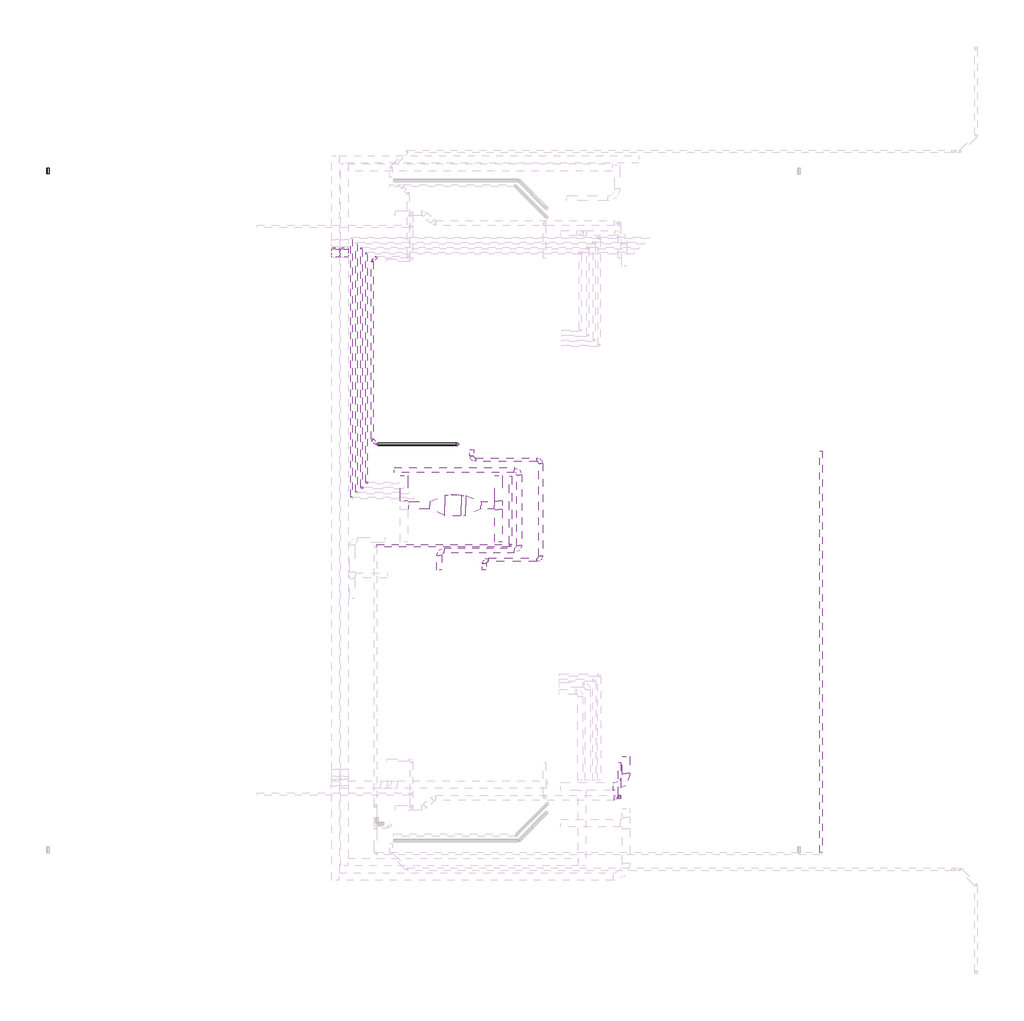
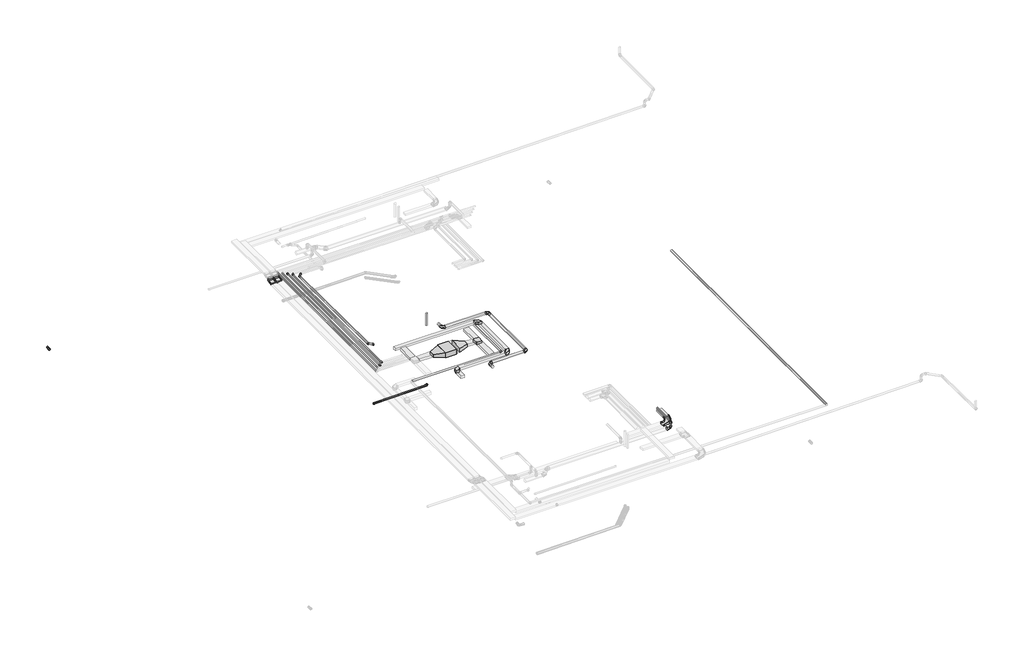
# One storey, part 3 of 5: 17 duct segments, 13 duct fittings, 13 pipe segments, 10 pipe fittings, 3 cable carrier fittings, 3 cable carrier segments, 1 proxy.
"""IFC4 building model written with IfcOpenShell, lengths in millimetres."""

from ifc_helpers import new_model, si_unit, point, frame, frame_2d, origin, place, context, project, spatial, polyline, circle_curve, trimmed, segment, composite_curve, outline, extrude, transform, mapped, element, save
from components import fc01_db58e849, m_codo_horizontal_de_canal_el_5b0e7b07, m_codo_vertical_interior_de_canal_el_3f65be50, duct_fitting_9d984206, duct_fitting_e8ecb067, duct_fitting_4802cc83, ext_95de42ea, m_codo_rectangular_radio_apt_1_w_a605e9b7, m_codo_redondo_ext_1_d_fe658834, m_codo_redondo_ext_1_d_96ea52f9, pipe_fitting_7b861d32, pipe_fitting_a8c499ec, pipe_fitting_f5d6ed74, pipe_fitting_3a68447e, pipe_fitting_87aeffad, pipe_fitting_022dd2a5, pipe_fitting_850c79cb

model = new_model("IFC4")

# Units and contexts
model_context = context("Model", 3, world=origin())
ifc_project = project(units=[si_unit("LENGTHUNIT", "METRE", prefix="MILLI")], contexts=[model_context])

# Site, building, storey
site = spatial("IfcSite", under=ifc_project)
building = spatial("IfcBuilding", under=site)
storey = spatial("IfcBuildingStorey", under=building, Name="Nivell 02 P02_PP", Elevation=14910.0)

# Proxy
placement = place(None, origin())
fc01_shape = fc01_db58e849(model_context)
element("IfcBuildingElementProxy", 1, Name="ARC_MDL_ME_UI_FC_ConducteSostre : FC01", ObjectType="ARC_MDL_ME_UI_FC_ConducteSostre : FC01", at=placement, inside=storey, context=model_context, shape_type="MappedRepresentation", body=[
    mapped(fc01_shape, transform((9681.3112506, -4290.0827616, 18019.6198525), x_axis=(-5.108879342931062e-05, -0.9999999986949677, 0.0), y_axis=(0.9999999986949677, -5.108879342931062e-05, 0.0), z_axis=(0.0, 0.0, 1.0))),
])

# Cable carrier fittings
m_codo_horizontal_de_canal_el_shape = m_codo_horizontal_de_canal_el_5b0e7b07(model_context)
element("IfcCableCarrierFitting", 2, ObjectType="M_Codo horizontal de canal : EL", at=placement, inside=storey, context=model_context, shape_type="MappedRepresentation", body=[
    mapped(m_codo_horizontal_de_canal_el_shape, transform((16614.6624278, -15521.1304394, 18010.0), x_axis=(1.0, 0.0, 0.0), y_axis=(0.0, 1.0, 0.0), z_axis=(0.0, 0.0, 1.0))),
])
m_codo_vertical_interior_de_canal_el_shape = m_codo_vertical_interior_de_canal_el_3f65be50(model_context)
element("IfcCableCarrierFitting", 3, ObjectType="M_Codo vertical interior de canal : EL", at=placement, inside=storey, context=model_context, shape_type="MappedRepresentation", body=[
    mapped(m_codo_vertical_interior_de_canal_el_shape, transform((5357.0671065, 5803.2057884, 18010.0), x_axis=(0.0, -0.8660254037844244, -0.5000000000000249), y_axis=(0.0, -0.5000000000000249, 0.8660254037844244), z_axis=(-1.0, 0.0, 0.0))),
])
element("IfcCableCarrierFitting", 4, ObjectType="M_Codo vertical interior de canal : EL", at=placement, inside=storey, context=model_context, shape_type="MappedRepresentation", body=[
    mapped(m_codo_vertical_interior_de_canal_el_shape, transform((5008.2381883, 5803.2057884, 18010.0), x_axis=(0.0, -0.8660254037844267, -0.5000000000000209), y_axis=(0.0, -0.5000000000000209, 0.8660254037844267), z_axis=(-1.0, 0.0, 0.0))),
])

# Cable carrier segments
element("IfcCableCarrierSegment", 5, ObjectType="EL", at=placement, inside=storey, context=model_context, shape_type="SweptSolid", body=[
    extrude(outline(polyline([(16464.6624278, -14321.1304394), (16764.6624278, -14321.1304394), (16764.6624278, -14996.1304394), (16464.6624278, -14996.1304394), (16464.6624278, -14321.1304394)])), frame((0.0, 0.0, 17960.0), z_axis=(0.0, 0.0, 1.0), x_axis=(1.0, 0.0, 0.0)), (0.0, 0.0, 1.0), 100.0),
])
element("IfcCableCarrierSegment", 6, ObjectType="EL", at=placement, inside=storey, context=model_context, shape_type="SweptSolid", body=[
    extrude(outline(polyline([(0.0, -300.0), (0.0, 0.0), (62.4355653, 0.0), (62.4355653, -300.0), (0.0, -300.0)])), frame((5507.0671065, 6028.446262, 18082.3076211), z_axis=(0.0, -0.5000000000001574, 0.8660254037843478), x_axis=(0.0, -0.8660254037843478, -0.5000000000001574)), (0.0, 0.0, 1.0), 100.0),
])
element("IfcCableCarrierSegment", 7, ObjectType="EL", at=placement, inside=storey, context=model_context, shape_type="SweptSolid", body=[
    extrude(outline(polyline([(0.0, -300.0), (0.0, 0.0), (62.4355653, 0.0), (62.4355653, -300.0), (0.0, -300.0)])), frame((5158.2381883, 6028.446262, 18082.3076211), z_axis=(0.0, -0.4999999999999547, 0.8660254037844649), x_axis=(0.0, -0.8660254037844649, -0.4999999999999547)), (0.0, 0.0, 1.0), 100.0),
])

# Duct fittings
duct_fitting_shape = duct_fitting_9d984206(model_context)
element("IfcDuctFitting", 8, ObjectType="M_Transición redonda - Ángulo : EXT_45 graus", at=placement, inside=storey, context=model_context, shape_type="MappedRepresentation", body=[
    mapped(duct_fitting_shape, transform((16250.5896993, -15972.9719502, 17990.0), x_axis=(-1.0, 0.0, 0.0), y_axis=(0.0, -1.0, 0.0), z_axis=(0.0, 0.0, 1.0))),
])
duct_fitting_2_shape = duct_fitting_e8ecb067(model_context)
element("IfcDuctFitting", 9, ObjectType="M_Transición rectangular - Ángulo : EXT_45 graus", at=placement, inside=storey, context=model_context, shape_type="MappedRepresentation", body=[
    mapped(duct_fitting_2_shape, transform((9366.311258, -4289.9287549, 18177.1198525), x_axis=(-0.9999999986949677, 5.108879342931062e-05, 0.0), y_axis=(-5.108879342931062e-05, -0.9999999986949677, 0.0), z_axis=(0.0, 0.0, 1.0))),
])
duct_fitting_3_shape = duct_fitting_4802cc83(model_context)
element("IfcDuctFitting", 10, ObjectType="M_Transición rectangular - Ángulo : EXT_45 graus", at=placement, inside=storey, context=model_context, shape_type="MappedRepresentation", body=[
    mapped(duct_fitting_3_shape, transform((10216.57728, -4290.2068024, 18177.1198525), x_axis=(0.9999999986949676, -5.1088793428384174e-05, 0.0), y_axis=(5.1088793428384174e-05, 0.9999999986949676, 0.0), z_axis=(0.0, 0.0, 1.0))),
])
ext_shape = ext_95de42ea(model_context)
element("IfcDuctFitting", 11, ObjectType="M_Te rectangular : EXT", at=placement, inside=storey, context=model_context, shape_type="MappedRepresentation", body=[
    mapped(ext_shape, transform((11523.311255, -4289.9524808, 18075.8305344), x_axis=(0.0, -1.0, 0.0), y_axis=(1.0, 0.0, 0.0), z_axis=(0.0, 0.0, 1.0))),
])
m_codo_rectangular_radio_apt_1_w_shape = m_codo_rectangular_radio_apt_1_w_a605e9b7(model_context)
element("IfcDuctFitting", 12, ObjectType="M_Codo rectangular - Radio : EXT_1 W", at=placement, inside=storey, context=model_context, shape_type="MappedRepresentation", body=[
    mapped(m_codo_rectangular_radio_apt_1_w_shape, transform((12351.1206995, -6088.8306037, 18185.0), x_axis=(1.0, 0.0, 0.0), y_axis=(0.0, 1.0, 0.0), z_axis=(0.0, 0.0, 1.0))),
])
element("IfcDuctFitting", 13, ObjectType="M_Codo rectangular - Radio : EXT_1 W", at=placement, inside=storey, context=model_context, shape_type="MappedRepresentation", body=[
    mapped(m_codo_rectangular_radio_apt_1_w_shape, transform((9151.1206995, -6088.8306037, 18185.0), x_axis=(-1.0, 0.0, 0.0), y_axis=(0.0, -1.0, 0.0), z_axis=(0.0, 0.0, 1.0))),
])
element("IfcDuctFitting", 14, ObjectType="M_Codo rectangular - Radio : EXT_1 W", at=placement, inside=storey, context=model_context, shape_type="MappedRepresentation", body=[
    mapped(m_codo_rectangular_radio_apt_1_w_shape, transform((12351.1206995, -2888.8306037, 18185.0), x_axis=(0.0, 1.0, 0.0), y_axis=(-1.0, 0.0, 0.0), z_axis=(0.0, 0.0, 1.0))),
])
m_codo_redondo_ext_1_d_shape = m_codo_redondo_ext_1_d_fe658834(model_context)
element("IfcDuctFitting", 15, ObjectType="M_Codo redondo : EXT_1 D", at=placement, inside=storey, context=model_context, shape_type="MappedRepresentation", body=[
    mapped(m_codo_redondo_ext_1_d_shape, transform((10951.1206995, -6468.8306037, 18185.0), x_axis=(-1.0, 0.0, 0.0), y_axis=(0.0, -1.0, 0.0), z_axis=(0.0, 0.0, 1.0))),
])
element("IfcDuctFitting", 16, ObjectType="M_Codo redondo : EXT_1 D", at=placement, inside=storey, context=model_context, shape_type="MappedRepresentation", body=[
    mapped(m_codo_redondo_ext_1_d_shape, transform((13201.1206995, -6468.8306037, 18185.0), x_axis=(1.0, 0.0, 0.0), y_axis=(0.0, 1.0, 0.0), z_axis=(0.0, 0.0, 1.0))),
])
element("IfcDuctFitting", 17, ObjectType="M_Codo redondo : EXT_1 D", at=placement, inside=storey, context=model_context, shape_type="MappedRepresentation", body=[
    mapped(m_codo_redondo_ext_1_d_shape, transform((13201.1206995, -2468.8306037, 18185.0), x_axis=(0.0, 1.0, 0.0), y_axis=(-1.0, 0.0, 0.0), z_axis=(0.0, 0.0, 1.0))),
])
element("IfcDuctFitting", 18, ObjectType="M_Codo redondo : EXT_1 D", at=placement, inside=storey, context=model_context, shape_type="MappedRepresentation", body=[
    mapped(m_codo_redondo_ext_1_d_shape, transform((10451.1206995, -2468.8306037, 18185.0), x_axis=(0.0, -1.0, 0.0), y_axis=(1.0, 0.0, 0.0), z_axis=(0.0, 0.0, 1.0))),
])
m_codo_redondo_ext_1_d_2_shape = m_codo_redondo_ext_1_d_96ea52f9(model_context)
element("IfcDuctFitting", 19, ObjectType="M_Codo redondo : EXT_1 D", at=placement, inside=storey, context=model_context, shape_type="MappedRepresentation", body=[
    mapped(m_codo_redondo_ext_1_d_2_shape, transform((16350.5896993, -15972.9719502, 18360.0), x_axis=(0.0, -1.0, 0.0), y_axis=(0.0, 0.0, 1.0), z_axis=(-1.0, 0.0, 0.0))),
])
element("IfcDuctFitting", 20, ObjectType="M_Codo redondo : EXT_1 D", at=placement, inside=storey, context=model_context, shape_type="MappedRepresentation", body=[
    mapped(m_codo_redondo_ext_1_d_2_shape, transform((16350.5896993, -15972.9719502, 17990.0), x_axis=(0.0, 0.0, -1.0), y_axis=(1.0, 0.0, 0.0), z_axis=(0.0, -1.0, 0.0))),
])

# Duct segments
element("IfcDuctSegment", 21, ObjectType="EXT_Fibra de vidre rígida", at=placement, inside=storey, context=model_context, shape_type="SweptSolid", body=[
    extrude(outline(polyline([(9351.1206995, -6188.8306037), (9351.1206995, -5988.8306037), (12151.1206995, -5988.8306037), (12151.1206995, -6188.8306037), (9351.1206995, -6188.8306037)])), frame((0.0, 0.0, 18110.0), z_axis=(0.0, 0.0, 1.0), x_axis=(1.0, 0.0, 0.0)), (0.0, 0.0, 1.0), 150.0),
])
element("IfcDuctSegment", 22, ObjectType="EXT_Fibra de vidre rígida", at=placement, inside=storey, context=model_context, shape_type="SweptSolid", body=[
    extrude(outline(polyline([(12251.1206995, -3088.8306037), (12451.1206995, -3088.8306037), (12451.1206995, -5888.8306037), (12251.1206995, -5888.8306037), (12251.1206995, -3088.8306037)])), frame((0.0, 0.0, 18110.0), z_axis=(0.0, 0.0, 1.0), x_axis=(1.0, 0.0, 0.0)), (0.0, 0.0, 1.0), 150.0),
])
element("IfcDuctSegment", 23, ObjectType="EXT_Fibra de vidre rígida", at=placement, inside=storey, context=model_context, shape_type="SweptSolid", body=[
    extrude(outline(polyline([(9251.1206995, -6868.8306037), (9051.1206995, -6868.8306037), (9051.1206995, -6288.8306037), (9251.1206995, -6288.8306037), (9251.1206995, -6868.8306037)])), frame((0.0, 0.0, 18110.0), z_axis=(0.0, 0.0, 1.0), x_axis=(1.0, 0.0, 0.0)), (0.0, 0.0, 1.0), 150.0),
])
element("IfcDuctSegment", 24, ObjectType="EXT_Fibra de vidre rígida", at=placement, inside=storey, context=model_context, shape_type="SweptSolid", body=[
    extrude(outline(polyline([(7351.1206995, -2988.8306037), (7351.1206995, -2788.8306037), (12151.1206995, -2788.8306037), (12151.1206995, -2988.8306037), (7351.1206995, -2988.8306037)])), frame((0.0, 0.0, 18110.0), z_axis=(0.0, 0.0, 1.0), x_axis=(1.0, 0.0, 0.0)), (0.0, 0.0, 1.0), 150.0),
])
element("IfcDuctSegment", 25, ObjectType="EXT_Acer Galvanitzat - Rígid", at=placement, inside=storey, context=model_context, shape_type="SweptSolid", body=[
    extrude(outline(composite_curve([segment(trimmed(circle_curve(frame_2d((18185.0, 10951.1206995)), 75.0), [point((18185.0, 11026.1206995))], [point((18260.0, 10951.1206995))], False, "CARTESIAN"), True, "CONTINUOUS"), segment(trimmed(circle_curve(frame_2d((18185.0, 10951.1206995)), 75.0), [point((18260.0, 10951.1206995))], [point((18185.0, 10876.1206995))], False, "CARTESIAN"), True, "CONTINUOUS"), segment(trimmed(circle_curve(frame_2d((18185.0, 10951.1206995)), 75.0), [point((18185.0, 10876.1206995))], [point((18110.0, 10951.1206995))], False, "CARTESIAN"), True, "CONTINUOUS"), segment(trimmed(circle_curve(frame_2d((18185.0, 10951.1206995)), 75.0), [point((18110.0, 10951.1206995))], [point((18185.0, 11026.1206995))], False, "CARTESIAN"), True, "CONTINUOUS")], self_intersect=False)), frame((0.0, -6868.8306037, 0.0), z_axis=(0.0, 1.0, 0.0), x_axis=(0.0, 0.0, 1.0)), (0.0, 0.0, 1.0), 250.0),
])
element("IfcDuctSegment", 26, ObjectType="EXT_Acer Galvanitzat - Rígid", at=placement, inside=storey, context=model_context, shape_type="SweptSolid", body=[
    extrude(outline(composite_curve([segment(trimmed(circle_curve(frame_2d((-6468.8306037, 18185.0)), 75.0), [point((-6543.8306037, 18185.0))], [point((-6468.8306037, 18260.0))], False, "CARTESIAN"), True, "CONTINUOUS"), segment(trimmed(circle_curve(frame_2d((-6468.8306037, 18185.0)), 75.0), [point((-6468.8306037, 18260.0))], [point((-6393.8306037, 18185.0))], False, "CARTESIAN"), True, "CONTINUOUS"), segment(trimmed(circle_curve(frame_2d((-6468.8306037, 18185.0)), 75.0), [point((-6393.8306037, 18185.0))], [point((-6468.8306037, 18110.0))], False, "CARTESIAN"), True, "CONTINUOUS"), segment(trimmed(circle_curve(frame_2d((-6468.8306037, 18185.0)), 75.0), [point((-6468.8306037, 18110.0))], [point((-6543.8306037, 18185.0))], False, "CARTESIAN"), True, "CONTINUOUS")], self_intersect=False)), frame((11101.1206995, 0.0, 0.0), z_axis=(1.0, 0.0, 0.0), x_axis=(0.0, 1.0, 0.0)), (0.0, 0.0, 1.0), 1950.0),
])
element("IfcDuctSegment", 27, ObjectType="EXT_Acer Galvanitzat - Rígid", at=placement, inside=storey, context=model_context, shape_type="SweptSolid", body=[
    extrude(outline(composite_curve([segment(trimmed(circle_curve(frame_2d((18185.0, 13201.1206995)), 75.0), [point((18185.0, 13276.1206995))], [point((18260.0, 13201.1206995))], False, "CARTESIAN"), True, "CONTINUOUS"), segment(trimmed(circle_curve(frame_2d((18185.0, 13201.1206995)), 75.0), [point((18260.0, 13201.1206995))], [point((18185.0, 13126.1206995))], False, "CARTESIAN"), True, "CONTINUOUS"), segment(trimmed(circle_curve(frame_2d((18185.0, 13201.1206995)), 75.0), [point((18185.0, 13126.1206995))], [point((18110.0, 13201.1206995))], False, "CARTESIAN"), True, "CONTINUOUS"), segment(trimmed(circle_curve(frame_2d((18185.0, 13201.1206995)), 75.0), [point((18110.0, 13201.1206995))], [point((18185.0, 13276.1206995))], False, "CARTESIAN"), True, "CONTINUOUS")], self_intersect=False)), frame((0.0, -6318.8306037, 0.0), z_axis=(0.0, 1.0, 0.0), x_axis=(0.0, 0.0, 1.0)), (0.0, 0.0, 1.0), 3700.0),
])
element("IfcDuctSegment", 28, ObjectType="EXT_Acer Galvanitzat - Rígid", at=placement, inside=storey, context=model_context, shape_type="SweptSolid", body=[
    extrude(outline(composite_curve([segment(trimmed(circle_curve(frame_2d((-2468.8306037, 18185.0)), 75.0), [point((-2393.8306037, 18185.0))], [point((-2468.8306037, 18110.0))], False, "CARTESIAN"), True, "CONTINUOUS"), segment(trimmed(circle_curve(frame_2d((-2468.8306037, 18185.0)), 75.0), [point((-2468.8306037, 18110.0))], [point((-2543.8306037, 18185.0))], False, "CARTESIAN"), True, "CONTINUOUS"), segment(trimmed(circle_curve(frame_2d((-2468.8306037, 18185.0)), 75.0), [point((-2543.8306037, 18185.0))], [point((-2468.8306037, 18260.0))], False, "CARTESIAN"), True, "CONTINUOUS"), segment(trimmed(circle_curve(frame_2d((-2468.8306037, 18185.0)), 75.0), [point((-2468.8306037, 18260.0))], [point((-2393.8306037, 18185.0))], False, "CARTESIAN"), True, "CONTINUOUS")], self_intersect=False)), frame((10601.1206995, 0.0, 0.0), z_axis=(1.0, 0.0, 0.0), x_axis=(0.0, 1.0, 0.0)), (0.0, 0.0, 1.0), 2450.0),
])
element("IfcDuctSegment", 29, ObjectType="EXT_Acer Galvanitzat - Rígid", at=placement, inside=storey, context=model_context, shape_type="SweptSolid", body=[
    extrude(outline(composite_curve([segment(trimmed(circle_curve(frame_2d((18185.0, 10451.1206995)), 75.0), [point((18185.0, 10526.1206995))], [point((18260.0, 10451.1206995))], False, "CARTESIAN"), True, "CONTINUOUS"), segment(trimmed(circle_curve(frame_2d((18185.0, 10451.1206995)), 75.0), [point((18260.0, 10451.1206995))], [point((18185.0, 10376.1206995))], False, "CARTESIAN"), True, "CONTINUOUS"), segment(trimmed(circle_curve(frame_2d((18185.0, 10451.1206995)), 75.0), [point((18185.0, 10376.1206995))], [point((18110.0, 10451.1206995))], False, "CARTESIAN"), True, "CONTINUOUS"), segment(trimmed(circle_curve(frame_2d((18185.0, 10451.1206995)), 75.0), [point((18110.0, 10451.1206995))], [point((18185.0, 10526.1206995))], False, "CARTESIAN"), True, "CONTINUOUS")], self_intersect=False)), frame((0.0, -2318.8306037, 0.0), z_axis=(0.0, 1.0, 0.0), x_axis=(0.0, 0.0, 1.0)), (0.0, 0.0, 1.0), 250.0),
])
element("IfcDuctSegment", 30, ObjectType="EXT_Acer Galvanitzat - Rígid", at=placement, inside=storey, context=model_context, shape_type="SweptSolid", body=[
    extrude(outline(composite_curve([segment(trimmed(circle_curve(frame_2d((18360.0, 16350.5896993)), 50.0), [point((18360.0, 16400.5896993))], [point((18410.0, 16350.5896993))], False, "CARTESIAN"), True, "CONTINUOUS"), segment(trimmed(circle_curve(frame_2d((18360.0, 16350.5896993)), 50.0), [point((18410.0, 16350.5896993))], [point((18360.0, 16300.5896993))], False, "CARTESIAN"), True, "CONTINUOUS"), segment(trimmed(circle_curve(frame_2d((18360.0, 16350.5896993)), 50.0), [point((18360.0, 16300.5896993))], [point((18310.0, 16350.5896993))], False, "CARTESIAN"), True, "CONTINUOUS"), segment(trimmed(circle_curve(frame_2d((18360.0, 16350.5896993)), 50.0), [point((18310.0, 16350.5896993))], [point((18360.0, 16400.5896993))], False, "CARTESIAN"), True, "CONTINUOUS")], self_intersect=False)), frame((0.0, -15872.9719502, 0.0), z_axis=(0.0, 1.0, 0.0), x_axis=(0.0, 0.0, 1.0)), (0.0, 0.0, 1.0), 1301.48805),
])
element("IfcDuctSegment", 31, ObjectType="EXT_Acer Galvanitzat - Rígid", at=placement, inside=storey, context=model_context, shape_type="SweptSolid", body=[
    extrude(outline(composite_curve([segment(trimmed(circle_curve(frame_2d((16350.5896993, -15972.9719502)), 50.0), [point((16400.5896993, -15972.9719502))], [point((16350.5896993, -16022.9719502))], False, "CARTESIAN"), True, "CONTINUOUS"), segment(trimmed(circle_curve(frame_2d((16350.5896993, -15972.9719502)), 50.0), [point((16350.5896993, -16022.9719502))], [point((16300.5896993, -15972.9719502))], False, "CARTESIAN"), True, "CONTINUOUS"), segment(trimmed(circle_curve(frame_2d((16350.5896993, -15972.9719502)), 50.0), [point((16300.5896993, -15972.9719502))], [point((16350.5896993, -15922.9719502))], False, "CARTESIAN"), True, "CONTINUOUS"), segment(trimmed(circle_curve(frame_2d((16350.5896993, -15972.9719502)), 50.0), [point((16350.5896993, -15922.9719502))], [point((16400.5896993, -15972.9719502))], False, "CARTESIAN"), True, "CONTINUOUS")], self_intersect=False)), frame((0.0, 0.0, 18090.0), z_axis=(0.0, 0.0, 1.0), x_axis=(1.0, 0.0, 0.0)), (0.0, 0.0, 1.0), 170.0),
])
element("IfcDuctSegment", 32, ObjectType="EXT_Planxa galvanitzada", at=placement, inside=storey, context=model_context, shape_type="SweptSolid", body=[
    extrude(outline(polyline([(7921.1541547, -4439.9850919), (7921.1694813, -4139.9850923), (8762.765525, -4140.0280884), (8762.7501984, -4440.028088), (7921.1541547, -4439.9850919)])), frame((0.0, 0.0, 18102.1198525), z_axis=(0.0, 0.0, 1.0), x_axis=(1.0, 0.0, 0.0)), (0.0, 0.0, 1.0), 150.0),
])
element("IfcDuctSegment", 33, ObjectType="EXT_Planxa galvanitzada", at=placement, inside=storey, context=model_context, shape_type="SweptSolid", body=[
    extrude(outline(polyline([(0.0, -300.0000001), (0.0, 0.0), (530.6650356, 0.0), (530.6650356, -300.0000001), (0.0, -300.0000001)])), frame((11341.1284595, -4439.9556573, 18001.1816596), z_axis=(0.09665101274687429, 4.254610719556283e-05, 0.9953183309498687), x_axis=(-0.9953182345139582, -0.00043814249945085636, 0.09665102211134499)), (0.0, 0.0, 1.0), 150.0),
])
element("IfcDuctSegment", 34, ObjectType="EXT_Planxa galvanitzada", at=placement, inside=storey, context=model_context, shape_type="SweptSolid", body=[
    extrude(outline(polyline([(11673.311255, -4114.9524808), (11373.311255, -4114.9524808), (11373.311255, -3089.9878585), (11673.311255, -3089.9878585), (11673.311255, -4114.9524808)])), frame((0.0, 0.0, 18000.8305344), z_axis=(0.0, 0.0, 1.0), x_axis=(1.0, 0.0, 0.0)), (0.0, 0.0, 1.0), 150.0),
])
element("IfcDuctSegment", 35, ObjectType="EXT_Planxa galvanitzada", at=placement, inside=storey, context=model_context, shape_type="SweptSolid", body=[
    extrude(outline(polyline([(11373.311255, -4464.9524808), (11673.311255, -4464.9524808), (11673.311255, -5765.0566725), (11373.311255, -5765.0566725), (11373.311255, -4464.9524808)])), frame((0.0, 0.0, 18000.8305344), z_axis=(0.0, 0.0, 1.0), x_axis=(1.0, 0.0, 0.0)), (0.0, 0.0, 1.0), 150.0),
])
element("IfcDuctSegment", 36, ObjectType="EXT_Planxa galvanitzada", at=placement, inside=storey, context=model_context, shape_type="SweptSolid", body=[
    extrude(outline(polyline([(7896.1618177, -4114.9902017), (7596.1618177, -4114.9902002), (7596.1618227, -3089.9878578), (7896.1618227, -3089.9878592), (7896.1618177, -4114.9902017)])), frame((0.0, 0.0, 18102.1198525), z_axis=(0.0, 0.0, 1.0), x_axis=(1.0, 0.0, 0.0)), (0.0, 0.0, 1.0), 150.0),
])
element("IfcDuctSegment", 37, ObjectType="EXT_Planxa galvanitzada", at=placement, inside=storey, context=model_context, shape_type="SweptSolid", body=[
    extrude(outline(polyline([(10023.2908097, -4690.1969281), (10023.3316807, -3890.1969292), (10216.5977155, -3890.2068029), (10216.5568445, -4690.2068019), (10023.2908097, -4690.1969281)])), frame((0.0, 0.0, 18039.6198525), z_axis=(0.0, 0.0, 1.0), x_axis=(1.0, 0.0, 0.0)), (0.0, 0.0, 1.0), 275.0),
])

# Pipe fittings
pipe_fitting_shape = pipe_fitting_7b861d32(model_context)
element("IfcPipeFitting", 38, ObjectType="M_Codo - Genérico : Estándar", at=placement, inside=storey, context=model_context, shape_type="MappedRepresentation", body=[
    mapped(pipe_fitting_shape, transform((6477.7328371, -1666.9305244, 18078.3813632), x_axis=(0.0, -0.9999500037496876, 0.00999950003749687), y_axis=(0.9999914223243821, 4.1416859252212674e-05, 0.004141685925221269), z_axis=(-0.004141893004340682, 0.009999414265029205, 0.9999414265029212))),
])
pipe_fitting_2_shape = pipe_fitting_a8c499ec(model_context)
element("IfcPipeFitting", 39, ObjectType="M_Codo - Genérico : Estándar", at=placement, inside=storey, context=model_context, shape_type="MappedRepresentation", body=[
    mapped(pipe_fitting_2_shape, transform((9883.1860519, -1852.0054626, 14363.2031678), x_axis=(0.9999500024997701, 4.9997101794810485e-05, 0.009999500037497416), y_axis=(-0.009999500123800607, 1.476482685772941e-06, 0.9999500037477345), z_axis=(4.997983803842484e-05, -0.9999999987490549, 1.976354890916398e-06))),
])
pipe_fitting_3_shape = pipe_fitting_f5d6ed74(model_context)
element("IfcPipeFitting", 40, ObjectType="M_Codo - Genérico : Estándar", at=placement, inside=storey, context=model_context, shape_type="MappedRepresentation", body=[
    mapped(pipe_fitting_3_shape, transform((6662.9687849, -1852.1664722, 18081.0009951), x_axis=(0.707071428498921, -0.7070714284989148, 0.00999950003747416), y_axis=(0.7070714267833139, 0.7071300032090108, 0.004141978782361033), z_axis=(-0.009999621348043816, 0.004141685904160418, 0.9999414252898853))),
])
pipe_fitting_4_shape = pipe_fitting_3a68447e(model_context)
element("IfcPipeFitting", 41, ObjectType="M_Codo - Genérico : Estándar", at=placement, inside=storey, context=model_context, shape_type="MappedRepresentation", body=[
    mapped(pipe_fitting_4_shape, transform((6245.7381883, -3394.9253722, 18022.5), x_axis=(0.0, -1.0, 0.0), y_axis=(1.0, 0.0, 0.0), z_axis=(0.0, 0.0, 1.0))),
])
element("IfcPipeFitting", 42, ObjectType="M_Codo - Genérico : Estándar", at=placement, inside=storey, context=model_context, shape_type="MappedRepresentation", body=[
    mapped(pipe_fitting_4_shape, transform((6045.7381883, -3594.9253722, 18022.5), x_axis=(0.0, -1.0, 0.0), y_axis=(1.0, 0.0, 0.0), z_axis=(0.0, 0.0, 1.0))),
])
element("IfcPipeFitting", 43, ObjectType="M_Codo - Genérico : Estándar", at=placement, inside=storey, context=model_context, shape_type="MappedRepresentation", body=[
    mapped(pipe_fitting_4_shape, transform((6045.7381883, 5994.2427547, 18022.5), x_axis=(-1.0, 0.0, 0.0), y_axis=(0.0, -1.0, 0.0), z_axis=(0.0, 0.0, 1.0))),
])
element("IfcPipeFitting", 44, ObjectType="M_Codo - Genérico : Estándar", at=placement, inside=storey, context=model_context, shape_type="MappedRepresentation", body=[
    mapped(pipe_fitting_4_shape, transform((6245.7381883, 5794.2427547, 18022.5), x_axis=(-1.0, 0.0, 0.0), y_axis=(0.0, -1.0, 0.0), z_axis=(0.0, 0.0, 1.0))),
])
pipe_fitting_5_shape = pipe_fitting_87aeffad(model_context)
element("IfcPipeFitting", 45, ObjectType="M_Codo - Genérico : Estándar", at=placement, inside=storey, context=model_context, shape_type="MappedRepresentation", body=[
    mapped(pipe_fitting_5_shape, transform((11998.0330075, -5912.8731458, 18210.8), x_axis=(1.0, 0.0, 0.0), y_axis=(0.0, 1.0, 0.0), z_axis=(0.0, 0.0, 1.0))),
])
pipe_fitting_6_shape = pipe_fitting_022dd2a5(model_context)
element("IfcPipeFitting", 46, ObjectType="M_Codo - Genérico : Estándar", at=placement, inside=storey, context=model_context, shape_type="MappedRepresentation", body=[
    mapped(pipe_fitting_6_shape, transform((6477.7328371, 5463.7392412, 18007.0746656), x_axis=(-0.7045209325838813, -0.7096305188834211, 0.008647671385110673), y_axis=(0.7096797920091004, -0.7045030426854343, 0.005482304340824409), z_axis=(0.002201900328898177, 0.009999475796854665, 0.9999475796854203))),
])
pipe_fitting_7_shape = pipe_fitting_850c79cb(model_context)
element("IfcPipeFitting", 47, ObjectType="M_Codo - Genérico : Estándar", at=placement, inside=storey, context=model_context, shape_type="MappedRepresentation", body=[
    mapped(pipe_fitting_7_shape, transform((6643.7930903, 5631.0053732, 18004.842405), x_axis=(-0.9999500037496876, 0.0, 0.00999950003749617), y_axis=(2.257932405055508e-05, -0.9999974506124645, 0.002257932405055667), z_axis=(0.009999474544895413, 0.0022580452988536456, 0.9999474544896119))),
])

# Pipe segments
element("IfcPipeSegment", 48, ObjectType="PVC_Baixant", at=placement, inside=storey, context=model_context, shape_type="SweptSolid", body=[
    extrude(outline(composite_curve([segment(trimmed(circle_curve(frame_2d((0.0, 45.0)), 45.0), [point((0.2250066, 0.0005626))], [point((-44.9994375, 44.7749933))], False, "CARTESIAN"), True, "CONTINUOUS"), segment(trimmed(circle_curve(frame_2d((0.0, 45.0)), 45.0), [point((-44.9994375, 44.7749933))], [point((-0.2250066, 89.9994375))], False, "CARTESIAN"), True, "CONTINUOUS"), segment(trimmed(circle_curve(frame_2d((0.0, 45.0)), 45.0), [point((-0.2250066, 89.9994375))], [point((44.9994375, 45.2250066))], False, "CARTESIAN"), True, "CONTINUOUS"), segment(trimmed(circle_curve(frame_2d((0.0, 45.0)), 45.0), [point((44.9994375, 45.2250066))], [point((0.2250066, 0.0005626))], False, "CARTESIAN"), True, "CONTINUOUS")], self_intersect=False)), frame((6684.6675762, -1897.1648248, 14331.4429784), z_axis=(0.9999500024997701, 4.9997101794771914e-05, 0.009999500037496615), x_axis=(0.00999962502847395, -0.004999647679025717, -0.9999375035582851)), (0.0, 0.0, 1.0), 3146.8134725),
])
element("IfcPipeSegment", 49, ObjectType="PVC_Baixant", at=placement, inside=storey, context=model_context, shape_type="SweptSolid", body=[
    extrude(outline(composite_curve([segment(trimmed(circle_curve(frame_2d((0.0, 45.0)), 45.0), [point((-45.0, 45.0))], [point((0.0, 90.0))], False, "CARTESIAN"), True, "CONTINUOUS"), segment(trimmed(circle_curve(frame_2d((0.0, 45.0)), 45.0), [point((0.0, 90.0))], [point((45.0, 45.0))], False, "CARTESIAN"), True, "CONTINUOUS"), segment(trimmed(circle_curve(frame_2d((0.0, 45.0)), 45.0), [point((45.0, 45.0))], [point((0.0, 0.0))], False, "CARTESIAN"), True, "CONTINUOUS"), segment(trimmed(circle_curve(frame_2d((0.0, 45.0)), 45.0), [point((0.0, 0.0))], [point((-45.0, 45.0))], False, "CARTESIAN"), True, "CONTINUOUS")], self_intersect=False)), frame((9883.187367, -1897.00536, 18165.0680666), z_axis=(-7.986001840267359e-06, -6.728992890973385e-07, 0.9999999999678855), x_axis=(0.999999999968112, -5.373479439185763e-12, 7.986001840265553e-06)), (0.0, 0.0, 1.0), 744.9319209),
])
element("IfcPipeSegment", 50, ObjectType="PVC_Baixant", at=placement, inside=storey, context=model_context, shape_type="SweptSolid", body=[
    extrude(outline(composite_curve([segment(trimmed(circle_curve(frame_2d((1e-07, -45.0)), 45.0), [point((44.9977504, -44.550045))], [point((0.4499551, -89.9977504))], False, "CARTESIAN"), True, "CONTINUOUS"), segment(trimmed(circle_curve(frame_2d((1e-07, -45.0)), 45.0), [point((0.4499551, -89.9977504))], [point((-44.9977503, -45.449955))], False, "CARTESIAN"), True, "CONTINUOUS"), segment(trimmed(circle_curve(frame_2d((1e-07, -45.0)), 45.0), [point((-44.9977503, -45.449955))], [point((-0.449955, -0.0022497))], False, "CARTESIAN"), True, "CONTINUOUS"), segment(trimmed(circle_curve(frame_2d((1e-07, -45.0)), 45.0), [point((-0.449955, -0.0022497))], [point((44.9977504, -44.550045))], False, "CARTESIAN"), True, "CONTINUOUS")], self_intersect=False)), frame((6493.0751147, -1681.6364696, 18123.5938365), z_axis=(0.7070714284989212, -0.7070714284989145, 0.009999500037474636), x_axis=(0.7071421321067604, 0.7070007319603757, -0.009998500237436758)), (0.0, 0.0, 1.0), 218.5780692),
])
element("IfcPipeSegment", 51, ObjectType="PPR_CLI_Aquatherm Blue Pipe", at=placement, inside=storey, context=model_context, shape_type="SweptSolid", body=[
    extrude(outline(composite_curve([segment(trimmed(circle_curve(frame_2d((18022.5, 6245.7381883)), 37.5), [point((18022.5, 6283.2381883))], [point((18060.0, 6245.7381883))], False, "CARTESIAN"), True, "CONTINUOUS"), segment(trimmed(circle_curve(frame_2d((18022.5, 6245.7381883)), 37.5), [point((18060.0, 6245.7381883))], [point((18022.5, 6208.2381883))], False, "CARTESIAN"), True, "CONTINUOUS"), segment(trimmed(circle_curve(frame_2d((18022.5, 6245.7381883)), 37.5), [point((18022.5, 6208.2381883))], [point((17985.0, 6245.7381883))], False, "CARTESIAN"), True, "CONTINUOUS"), segment(trimmed(circle_curve(frame_2d((18022.5, 6245.7381883)), 37.5), [point((17985.0, 6245.7381883))], [point((18022.5, 6283.2381883))], False, "CARTESIAN"), True, "CONTINUOUS")], self_intersect=False)), frame((0.0, -3349.4878722, 0.0), z_axis=(0.0, 1.0, 0.0), x_axis=(0.0, 0.0, 1.0)), (0.0, 0.0, 1.0), 9098.2931269),
])
element("IfcPipeSegment", 52, ObjectType="PPR_CLI_Aquatherm Blue Pipe", at=placement, inside=storey, context=model_context, shape_type="SweptSolid", body=[
    extrude(outline(composite_curve([segment(trimmed(circle_curve(frame_2d((18022.5, 6045.7381883)), 37.5), [point((18022.5, 6083.2381883))], [point((18060.0, 6045.7381883))], False, "CARTESIAN"), True, "CONTINUOUS"), segment(trimmed(circle_curve(frame_2d((18022.5, 6045.7381883)), 37.5), [point((18060.0, 6045.7381883))], [point((18022.5, 6008.2381883))], False, "CARTESIAN"), True, "CONTINUOUS"), segment(trimmed(circle_curve(frame_2d((18022.5, 6045.7381883)), 37.5), [point((18022.5, 6008.2381883))], [point((17985.0, 6045.7381883))], False, "CARTESIAN"), True, "CONTINUOUS"), segment(trimmed(circle_curve(frame_2d((18022.5, 6045.7381883)), 37.5), [point((17985.0, 6045.7381883))], [point((18022.5, 6083.2381883))], False, "CARTESIAN"), True, "CONTINUOUS")], self_intersect=False)), frame((0.0, -3549.4878722, 0.0), z_axis=(0.0, 1.0, 0.0), x_axis=(0.0, 0.0, 1.0)), (0.0, 0.0, 1.0), 9498.2931269),
])
element("IfcPipeSegment", 53, ObjectType="PPR_CLI_Aquatherm Blue Pipe", at=placement, inside=storey, context=model_context, shape_type="SweptSolid", body=[
    extrude(outline(composite_curve([segment(trimmed(circle_curve(frame_2d((18022.5, 5845.7381883)), 37.5), [point((18022.5, 5883.2381883))], [point((18060.0, 5845.7381883))], False, "CARTESIAN"), True, "CONTINUOUS"), segment(trimmed(circle_curve(frame_2d((18022.5, 5845.7381883)), 37.5), [point((18060.0, 5845.7381883))], [point((18022.5, 5808.2381883))], False, "CARTESIAN"), True, "CONTINUOUS"), segment(trimmed(circle_curve(frame_2d((18022.5, 5845.7381883)), 37.5), [point((18022.5, 5808.2381883))], [point((17985.0, 5845.7381883))], False, "CARTESIAN"), True, "CONTINUOUS"), segment(trimmed(circle_curve(frame_2d((18022.5, 5845.7381883)), 37.5), [point((17985.0, 5845.7381883))], [point((18022.5, 5883.2381883))], False, "CARTESIAN"), True, "CONTINUOUS")], self_intersect=False)), frame((0.0, -3749.4878722, 0.0), z_axis=(0.0, 1.0, 0.0), x_axis=(0.0, 0.0, 1.0)), (0.0, 0.0, 1.0), 9898.2931269),
])
element("IfcPipeSegment", 54, ObjectType="PPR_CLI_Aquatherm Blue Pipe", at=placement, inside=storey, context=model_context, shape_type="SweptSolid", body=[
    extrude(outline(composite_curve([segment(trimmed(circle_curve(frame_2d((18022.5, 5645.7381883)), 37.5), [point((18022.5, 5683.2381883))], [point((18060.0, 5645.7381883))], False, "CARTESIAN"), True, "CONTINUOUS"), segment(trimmed(circle_curve(frame_2d((18022.5, 5645.7381883)), 37.5), [point((18060.0, 5645.7381883))], [point((18022.5, 5608.2381883))], False, "CARTESIAN"), True, "CONTINUOUS"), segment(trimmed(circle_curve(frame_2d((18022.5, 5645.7381883)), 37.5), [point((18022.5, 5608.2381883))], [point((17985.0, 5645.7381883))], False, "CARTESIAN"), True, "CONTINUOUS"), segment(trimmed(circle_curve(frame_2d((18022.5, 5645.7381883)), 37.5), [point((17985.0, 5645.7381883))], [point((18022.5, 5683.2381883))], False, "CARTESIAN"), True, "CONTINUOUS")], self_intersect=False)), frame((0.0, -3949.4878722, 0.0), z_axis=(0.0, 1.0, 0.0), x_axis=(0.0, 0.0, 1.0)), (0.0, 0.0, 1.0), 10298.2931269),
])
element("IfcPipeSegment", 55, ObjectType="PVC_Baixant", at=placement, inside=storey, context=model_context, shape_type="SweptSolid", body=[
    extrude(outline(composite_curve([segment(trimmed(circle_curve(frame_2d((0.0, 45.0)), 45.0), [point((-44.9983416, 45.386329))], [point((0.386329, 89.9983416))], False, "CARTESIAN"), True, "CONTINUOUS"), segment(trimmed(circle_curve(frame_2d((0.0, 45.0)), 45.0), [point((0.386329, 89.9983416))], [point((44.9983416, 44.613671))], False, "CARTESIAN"), True, "CONTINUOUS"), segment(trimmed(circle_curve(frame_2d((0.0, 45.0)), 45.0), [point((44.9983416, 44.613671))], [point((-0.386329, 0.0016584))], False, "CARTESIAN"), True, "CONTINUOUS"), segment(trimmed(circle_curve(frame_2d((0.0, 45.0)), 45.0), [point((-0.386329, 0.0016584))], [point((-44.9983416, 45.386329))], False, "CARTESIAN"), True, "CONTINUOUS")], self_intersect=False)), frame((6628.4278424, 5614.9803513, 17960.0343473), z_axis=(-0.7045209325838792, -0.7096305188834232, 0.008647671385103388), x_axis=(0.7096832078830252, -0.7044686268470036, 0.008584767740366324)), (0.0, 0.0, 1.0), 192.3121307),
])
element("IfcPipeSegment", 56, ObjectType="PVC_Baixant", at=placement, inside=storey, context=model_context, shape_type="SweptSolid", body=[
    extrude(outline(composite_curve([segment(trimmed(circle_curve(frame_2d((0.0, -44.9999999)), 45.0), [point((45.0, -44.9999999))], [point((0.0, -90.0))], False, "CARTESIAN"), True, "CONTINUOUS"), segment(trimmed(circle_curve(frame_2d((0.0, -44.9999999)), 45.0), [point((0.0, -90.0))], [point((-45.0, -44.9999999))], False, "CARTESIAN"), True, "CONTINUOUS"), segment(trimmed(circle_curve(frame_2d((0.0, -44.9999999)), 45.0), [point((-45.0, -44.9999999))], [point((0.0, 0.0))], False, "CARTESIAN"), True, "CONTINUOUS"), segment(trimmed(circle_curve(frame_2d((0.0, -44.9999999)), 45.0), [point((0.0, 0.0))], [point((45.0, -44.9999999))], False, "CARTESIAN"), True, "CONTINUOUS")], self_intersect=False)), frame((6477.7328371, 5442.6025464, 18052.2882824), z_axis=(0.0, -0.9999500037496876, 0.009999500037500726), x_axis=(1.0, 0.0, 0.0)), (0.0, 0.0, 1.0), 7087.7401966),
])
element("IfcPipeSegment", 57, ObjectType="AN_CI", at=placement, inside=storey, context=model_context, shape_type="SweptSolid", body=[
    extrude(outline(composite_curve([segment(trimmed(circle_curve(frame_2d((-5912.8731458, 18210.8)), 50.8), [point((-5963.6731458, 18210.8))], [point((-5912.8731458, 18261.6))], False, "CARTESIAN"), True, "CONTINUOUS"), segment(trimmed(circle_curve(frame_2d((-5912.8731458, 18210.8)), 50.8), [point((-5912.8731458, 18261.6))], [point((-5862.0731458, 18210.8))], False, "CARTESIAN"), True, "CONTINUOUS"), segment(trimmed(circle_curve(frame_2d((-5912.8731458, 18210.8)), 50.8), [point((-5862.0731458, 18210.8))], [point((-5912.8731458, 18160.0))], False, "CARTESIAN"), True, "CONTINUOUS"), segment(trimmed(circle_curve(frame_2d((-5912.8731458, 18210.8)), 50.8), [point((-5912.8731458, 18160.0))], [point((-5963.6731458, 18210.8))], False, "CARTESIAN"), True, "CONTINUOUS")], self_intersect=False)), frame((6656.2816113, 0.0, 0.0), z_axis=(1.0, 0.0, 0.0), x_axis=(0.0, 1.0, 0.0)), (0.0, 0.0, 1.0), 5289.3638963),
])
element("IfcPipeSegment", 58, ObjectType="AN_CI", at=placement, inside=storey, context=model_context, shape_type="SweptSolid", body=[
    extrude(outline(composite_curve([segment(trimmed(circle_curve(frame_2d((18210.8, 11998.0330075)), 50.8), [point((18210.8, 12048.8330075))], [point((18261.6, 11998.0330075))], False, "CARTESIAN"), True, "CONTINUOUS"), segment(trimmed(circle_curve(frame_2d((18210.8, 11998.0330075)), 50.8), [point((18261.6, 11998.0330075))], [point((18210.8, 11947.2330075))], False, "CARTESIAN"), True, "CONTINUOUS"), segment(trimmed(circle_curve(frame_2d((18210.8, 11998.0330075)), 50.8), [point((18210.8, 11947.2330075))], [point((18160.0, 11998.0330075))], False, "CARTESIAN"), True, "CONTINUOUS"), segment(trimmed(circle_curve(frame_2d((18210.8, 11998.0330075)), 50.8), [point((18160.0, 11998.0330075))], [point((18210.8, 12048.8330075))], False, "CARTESIAN"), True, "CONTINUOUS")], self_intersect=False)), frame((0.0, -5860.4856458, 0.0), z_axis=(0.0, 1.0, 0.0), x_axis=(0.0, 0.0, 1.0)), (0.0, 0.0, 1.0), 2747.6125),
])
element("IfcPipeSegment", 59, ObjectType="AN_CI", at=placement, inside=storey, context=model_context, shape_type="SweptSolid", body=[
    extrude(outline(composite_curve([segment(trimmed(circle_curve(frame_2d((0.0, 50.8)), 50.8), [point((0.0, 101.6))], [point((50.8, 50.8))], False, "CARTESIAN"), True, "CONTINUOUS"), segment(trimmed(circle_curve(frame_2d((0.0, 50.8)), 50.8), [point((50.8, 50.8))], [point((0.0, 0.0))], False, "CARTESIAN"), True, "CONTINUOUS"), segment(trimmed(circle_curve(frame_2d((0.0, 50.8)), 50.8), [point((0.0, 0.0))], [point((-50.8, 50.8))], False, "CARTESIAN"), True, "CONTINUOUS"), segment(trimmed(circle_curve(frame_2d((0.0, 50.8)), 50.8), [point((-50.8, 50.8))], [point((0.0, 101.6))], False, "CARTESIAN"), True, "CONTINUOUS")], self_intersect=False)), frame((-6534.7156333, 8953.5585617, 15810.0), z_axis=(6.25681762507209e-05, 0.9999999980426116, 0.0), x_axis=(0.0, 0.0, 1.0)), (0.0, 0.0, 1.0), 227.6125),
])
element("IfcPipeSegment", 60, ObjectType="AN_CI", at=placement, inside=storey, context=model_context, shape_type="SweptSolid", body=[
    extrude(outline(composite_curve([segment(trimmed(circle_curve(frame_2d((17959.2, 24403.8941113)), 50.8), [point((17959.2, 24454.6941113))], [point((18010.0, 24403.8941113))], False, "CARTESIAN"), True, "CONTINUOUS"), segment(trimmed(circle_curve(frame_2d((17959.2, 24403.8941113)), 50.8), [point((18010.0, 24403.8941113))], [point((17959.2, 24353.0941113))], False, "CARTESIAN"), True, "CONTINUOUS"), segment(trimmed(circle_curve(frame_2d((17959.2, 24403.8941113)), 50.8), [point((17959.2, 24353.0941113))], [point((17908.4, 24403.8941113))], False, "CARTESIAN"), True, "CONTINUOUS"), segment(trimmed(circle_curve(frame_2d((17959.2, 24403.8941113)), 50.8), [point((17908.4, 24403.8941113))], [point((17959.2, 24454.6941113))], False, "CARTESIAN"), True, "CONTINUOUS")], self_intersect=False)), frame((0.0, -18159.2231458, 0.0), z_axis=(0.0, 1.0, 0.0), x_axis=(0.0, 0.0, 1.0)), (0.0, 0.0, 1.0), 16047.6125),
])

save(model, "model.ifc")
